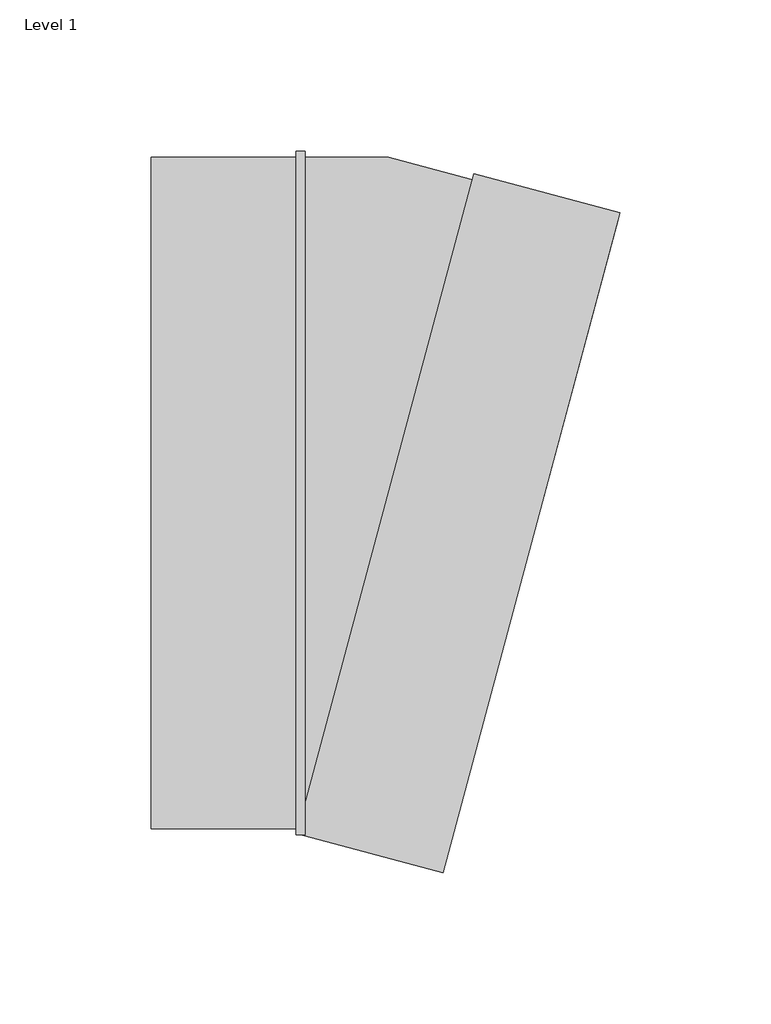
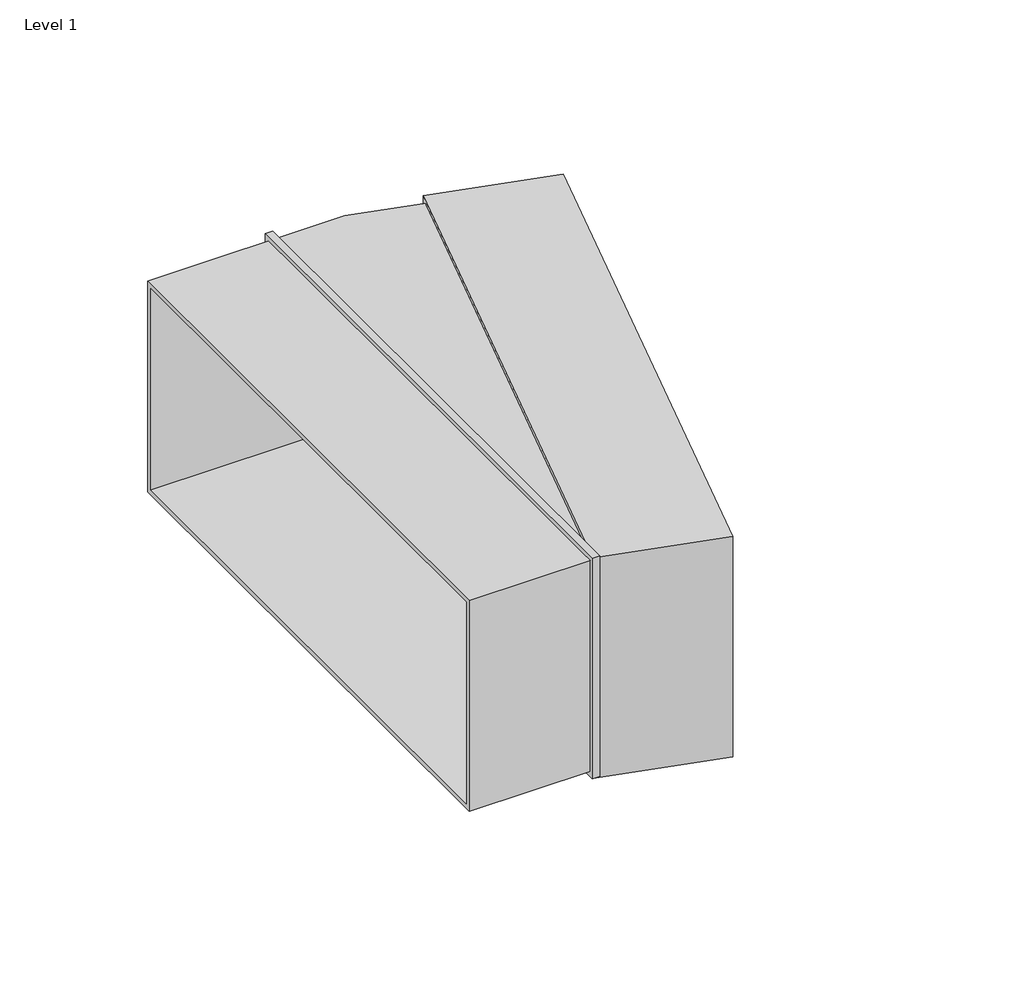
# One storey: 1 proxy.
"""IFC4 building model written with IfcOpenShell, lengths in millimetres."""

from ifc_helpers import new_model, si_unit, origin, place, context, project, spatial, transform, mapped, element, save
from components import specialty_equipment_8436bc5d

model = new_model("IFC4")

# Units and contexts
model_context = context("Model", 3, world=origin())
ifc_project = project(units=[si_unit("LENGTHUNIT", "METRE", prefix="MILLI")], contexts=[model_context])

# Site, building, storey
site = spatial("IfcSite", under=ifc_project)
building = spatial("IfcBuilding", under=site)
storey = spatial("IfcBuildingStorey", under=building, Name="Level 1", Elevation=0.0)

# Proxy
placement = place(None, origin())
specialty_equipment_shape = specialty_equipment_8436bc5d(model_context)
element("IfcBuildingElementProxy", 1, Name="10811460_D_DFK-BH15 : 28996395_D_10811460_DFK-BH15", ObjectType="10811460_D_DFK-BH15 : 28996395_D_10811460_DFK-BH15", at=placement, inside=storey, context=model_context, shape_type="MappedRepresentation", body=[
    mapped(specialty_equipment_shape, transform((0.0, 0.0, 0.0), x_axis=(1.0, 0.0, 0.0), y_axis=(0.0, 1.0, 0.0), z_axis=(0.0, 0.0, 1.0))),
])

save(model, "model.ifc")
